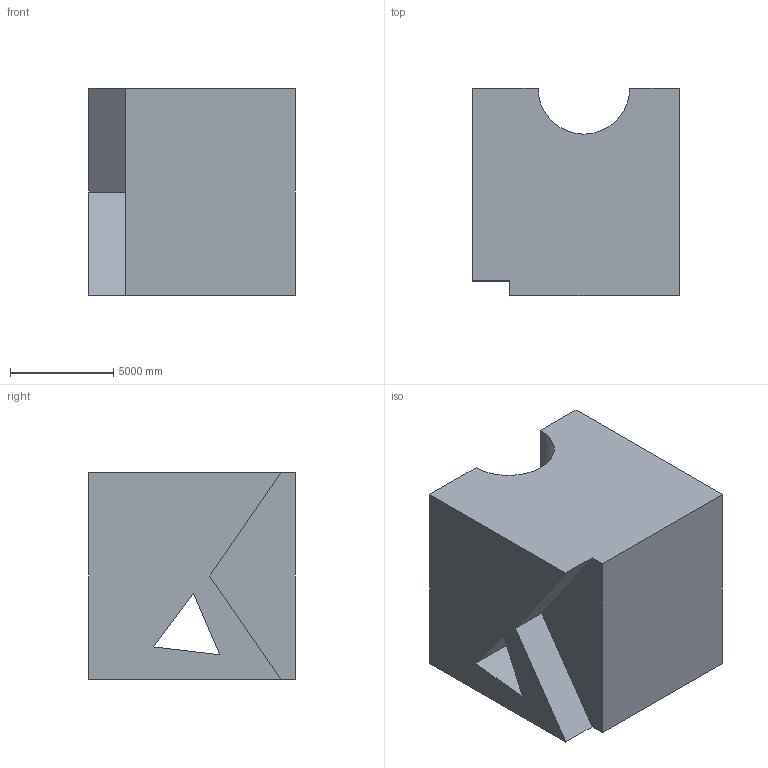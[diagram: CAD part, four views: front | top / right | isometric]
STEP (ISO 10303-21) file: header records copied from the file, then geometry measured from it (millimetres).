
FILE_DESCRIPTION (( 'STEP AP203' ), '1' );
FILE_NAME ('27.STEP', '2022-08-30T14:04:42', ( 'user' ), ( '' ), 'SwSTEP 2.0', 'SolidWorks 2021', '' );
FILE_SCHEMA (( 'CONFIG_CONTROL_DESIGN' ));
Length unit declared in the file: centimetre
Products named in the file (1): 27
Bounding box: 10000 x 10000 x 10000 mm (x, y, z)
Volume: 834809192049.3 mm3; surface area: 698879690.3 mm2
Topology: 1 solids, 1 shells, 14 faces, 36 edges, 24 vertices
Faces by surface type: plane 13, cylinder 1
Entity records: 503 total; most frequent: CARTESIAN_POINT 75, ORIENTED_EDGE 72, DIRECTION 68, EDGE_CURVE 36, LINE 34, VECTOR 34, VERTEX_POINT 24, AXIS2_PLACEMENT_3D 17
